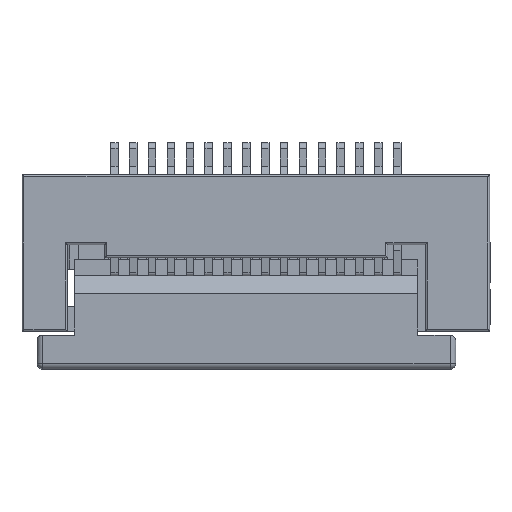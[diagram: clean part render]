
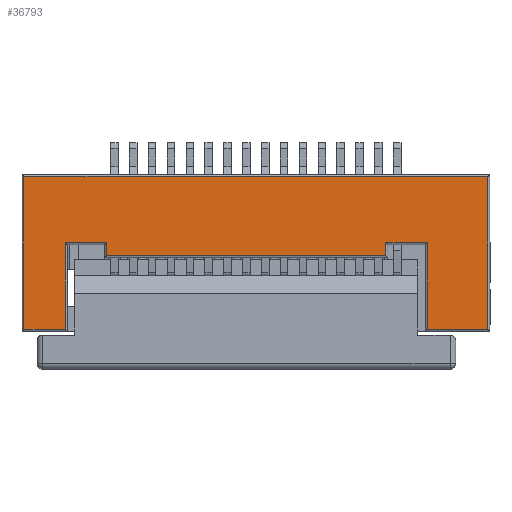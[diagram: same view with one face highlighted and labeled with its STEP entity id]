
A CAD part, top view. The second image highlights one B-rep face of the part: STEP entity #36793.
In plain terms, the highlighted planar face has unit normal (0, 0, 1).
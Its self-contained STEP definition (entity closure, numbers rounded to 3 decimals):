
#396 = VECTOR ( 'NONE', #12147, 1000. ) ;
#829 = EDGE_CURVE ( 'NONE', #22123, #24133, #31699, .T. ) ;
#1330 = CARTESIAN_POINT ( 'NONE',  ( 3.7, -0.5, 1. ) ) ;
#1360 = CARTESIAN_POINT ( 'NONE',  ( 6.4, 1.6, 1. ) ) ;
#1456 = CARTESIAN_POINT ( 'NONE',  ( 1.75, -0.15, 1. ) ) ;
#1560 = CARTESIAN_POINT ( 'NONE',  ( 1.75, -0.55, 1. ) ) ;
#2253 = CARTESIAN_POINT ( 'NONE',  ( -5.9, -2.45, 1. ) ) ;
#2502 = CARTESIAN_POINT ( 'NONE',  ( 1.75, -2.45, 1. ) ) ;
#3235 = DIRECTION ( 'NONE',  ( 1., 0., 0. ) ) ;
#3364 = VECTOR ( 'NONE', #19814, 1000. ) ;
#3468 = DIRECTION ( 'NONE',  ( 0., 1., 0. ) ) ;
#4263 = CARTESIAN_POINT ( 'NONE',  ( 6.4, 1.65, 1. ) ) ;
#4272 = CARTESIAN_POINT ( 'NONE',  ( -4.8, -2.45, 1. ) ) ;
#4996 = DIRECTION ( 'NONE',  ( -1., 0., 0. ) ) ;
#6515 = DIRECTION ( 'NONE',  ( 1., 0., 0. ) ) ;
#6607 = EDGE_LOOP ( 'NONE', ( #29997, #8873, #14682, #35915, #21302, #25808, #37437, #20094, #38103, #40486, #36080, #7340 ) ) ;
#6655 = CARTESIAN_POINT ( 'NONE',  ( 4.8, -2.45, 1. ) ) ;
#7340 = ORIENTED_EDGE ( 'NONE', *, *, #31312, .T. ) ;
#8642 = CARTESIAN_POINT ( 'NONE',  ( -3.7, -0.55, 1. ) ) ;
#8873 = ORIENTED_EDGE ( 'NONE', *, *, #24446, .T. ) ;
#8914 = DIRECTION ( 'NONE',  ( 0., 1., 0. ) ) ;
#8997 = EDGE_CURVE ( 'NONE', #15266, #39085, #18243, .T. ) ;
#9362 = LINE ( 'NONE', #2502, #396 ) ;
#9683 = LINE ( 'NONE', #36366, #14340 ) ;
#9873 = EDGE_CURVE ( 'NONE', #39094, #34595, #21858, .T. ) ;
#9975 = VERTEX_POINT ( 'NONE', #2253 ) ;
#10745 = VERTEX_POINT ( 'NONE', #4272 ) ;
#10863 = EDGE_CURVE ( 'NONE', #39085, #14611, #13219, .T. ) ;
#11398 = DIRECTION ( 'NONE',  ( 0., 0., -1. ) ) ;
#12147 = DIRECTION ( 'NONE',  ( 1., 0., 0. ) ) ;
#13219 = LINE ( 'NONE', #22761, #40216 ) ;
#13260 = VECTOR ( 'NONE', #8914, 1000. ) ;
#13844 = EDGE_CURVE ( 'NONE', #24133, #22140, #19584, .T. ) ;
#13892 = DIRECTION ( 'NONE',  ( -1., 0., 0. ) ) ;
#13980 = EDGE_CURVE ( 'NONE', #20442, #22123, #30965, .T. ) ;
#14316 = LINE ( 'NONE', #23645, #34910 ) ;
#14340 = VECTOR ( 'NONE', #3468, 1000. ) ;
#14611 = VERTEX_POINT ( 'NONE', #6655 ) ;
#14682 = ORIENTED_EDGE ( 'NONE', *, *, #13980, .T. ) ;
#15152 = DIRECTION ( 'NONE',  ( 1., 0., 0. ) ) ;
#15266 = VERTEX_POINT ( 'NONE', #24805 ) ;
#16123 = LINE ( 'NONE', #16323, #3364 ) ;
#16143 = LINE ( 'NONE', #26091, #21118 ) ;
#16323 = CARTESIAN_POINT ( 'NONE',  ( -5.9, -2.5, 1. ) ) ;
#18243 = LINE ( 'NONE', #41243, #32225 ) ;
#18311 = CARTESIAN_POINT ( 'NONE',  ( -4.8, -0.15, 1. ) ) ;
#18541 = EDGE_CURVE ( 'NONE', #9975, #10745, #9362, .T. ) ;
#18605 = LINE ( 'NONE', #22286, #27117 ) ;
#19029 = DIRECTION ( 'NONE',  ( 0., 1., 0. ) ) ;
#19419 = EDGE_CURVE ( 'NONE', #14611, #39094, #16143, .T. ) ;
#19584 = LINE ( 'NONE', #32733, #24033 ) ;
#19814 = DIRECTION ( 'NONE',  ( 0., -1., 0. ) ) ;
#20047 = CARTESIAN_POINT ( 'NONE',  ( -5.9, 1.6, 1. ) ) ;
#20094 = ORIENTED_EDGE ( 'NONE', *, *, #10863, .T. ) ;
#20278 = FACE_OUTER_BOUND ( 'NONE', #6607, .T. ) ;
#20442 = VERTEX_POINT ( 'NONE', #18311 ) ;
#21118 = VECTOR ( 'NONE', #6515, 1000. ) ;
#21302 = ORIENTED_EDGE ( 'NONE', *, *, #13844, .T. ) ;
#21858 = LINE ( 'NONE', #4263, #13260 ) ;
#22123 = VERTEX_POINT ( 'NONE', #39891 ) ;
#22140 = VERTEX_POINT ( 'NONE', #1330 ) ;
#22286 = CARTESIAN_POINT ( 'NONE',  ( 3.7, -0.55, 1. ) ) ;
#22761 = CARTESIAN_POINT ( 'NONE',  ( 4.8, -0.55, 1. ) ) ;
#23645 = CARTESIAN_POINT ( 'NONE',  ( -5.95, 1.6, 1. ) ) ;
#24033 = VECTOR ( 'NONE', #3235, 1000. ) ;
#24133 = VERTEX_POINT ( 'NONE', #33560 ) ;
#24446 = EDGE_CURVE ( 'NONE', #10745, #20442, #9683, .T. ) ;
#24538 = VECTOR ( 'NONE', #34889, 1000. ) ;
#24805 = CARTESIAN_POINT ( 'NONE',  ( 3.7, -0.15, 1. ) ) ;
#25297 = CARTESIAN_POINT ( 'NONE',  ( 4.8, -0.15, 1. ) ) ;
#25571 = DIRECTION ( 'NONE',  ( 1., 0., 0. ) ) ;
#25808 = ORIENTED_EDGE ( 'NONE', *, *, #35130, .T. ) ;
#26091 = CARTESIAN_POINT ( 'NONE',  ( 1.75, -2.45, 1. ) ) ;
#26543 = PLANE ( 'NONE',  #33572 ) ;
#27117 = VECTOR ( 'NONE', #19029, 1000. ) ;
#29176 = VERTEX_POINT ( 'NONE', #20047 ) ;
#29226 = DIRECTION ( 'NONE',  ( 0., -1., 0. ) ) ;
#29997 = ORIENTED_EDGE ( 'NONE', *, *, #18541, .T. ) ;
#30749 = EDGE_CURVE ( 'NONE', #34595, #29176, #14316, .T. ) ;
#30965 = LINE ( 'NONE', #1456, #39809 ) ;
#31312 = EDGE_CURVE ( 'NONE', #29176, #9975, #16123, .T. ) ;
#31699 = LINE ( 'NONE', #8642, #24538 ) ;
#32225 = VECTOR ( 'NONE', #25571, 1000. ) ;
#32733 = CARTESIAN_POINT ( 'NONE',  ( 1.75, -0.5, 1. ) ) ;
#33560 = CARTESIAN_POINT ( 'NONE',  ( -3.7, -0.5, 1. ) ) ;
#33572 = AXIS2_PLACEMENT_3D ( 'NONE', #1560, #11398, #4996 ) ;
#34595 = VERTEX_POINT ( 'NONE', #1360 ) ;
#34889 = DIRECTION ( 'NONE',  ( 0., -1., 0. ) ) ;
#34910 = VECTOR ( 'NONE', #13892, 1000. ) ;
#35130 = EDGE_CURVE ( 'NONE', #22140, #15266, #18605, .T. ) ;
#35915 = ORIENTED_EDGE ( 'NONE', *, *, #829, .T. ) ;
#36080 = ORIENTED_EDGE ( 'NONE', *, *, #30749, .T. ) ;
#36366 = CARTESIAN_POINT ( 'NONE',  ( -4.8, -0.55, 1. ) ) ;
#36793 = ADVANCED_FACE ( 'NONE', ( #20278 ), #26543, .F. ) ;
#37437 = ORIENTED_EDGE ( 'NONE', *, *, #8997, .T. ) ;
#38103 = ORIENTED_EDGE ( 'NONE', *, *, #19419, .T. ) ;
#38192 = CARTESIAN_POINT ( 'NONE',  ( 6.4, -2.45, 1. ) ) ;
#39085 = VERTEX_POINT ( 'NONE', #25297 ) ;
#39094 = VERTEX_POINT ( 'NONE', #38192 ) ;
#39809 = VECTOR ( 'NONE', #15152, 1000. ) ;
#39891 = CARTESIAN_POINT ( 'NONE',  ( -3.7, -0.15, 1. ) ) ;
#40216 = VECTOR ( 'NONE', #29226, 1000. ) ;
#40486 = ORIENTED_EDGE ( 'NONE', *, *, #9873, .T. ) ;
#41243 = CARTESIAN_POINT ( 'NONE',  ( 1.75, -0.15, 1. ) ) ;
